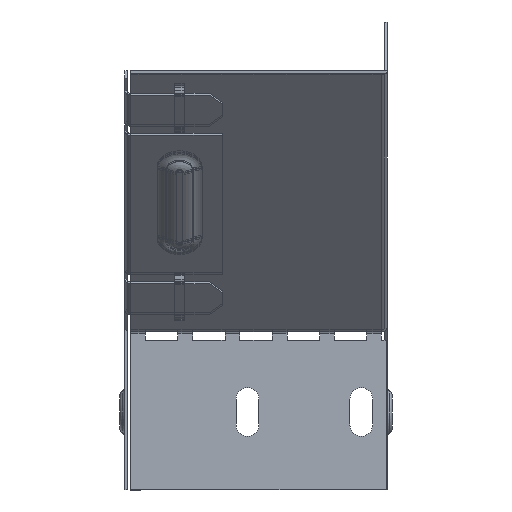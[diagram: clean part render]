
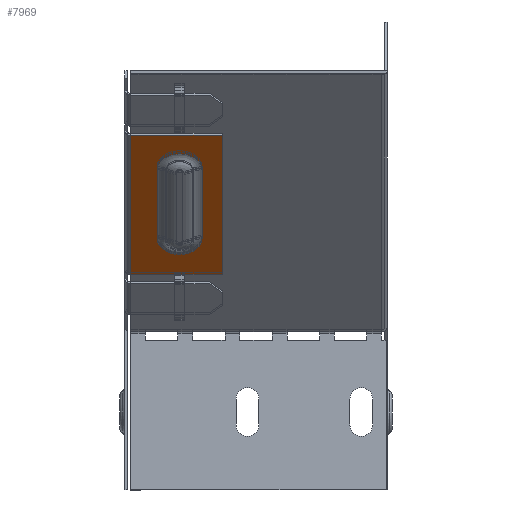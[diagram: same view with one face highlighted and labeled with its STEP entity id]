
A CAD part, left-side view. The second image highlights one B-rep face of the part: STEP entity #7969.
In plain terms, the highlighted planar face has unit normal (-0.707, 0, -0.707).
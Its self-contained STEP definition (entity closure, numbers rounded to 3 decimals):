
#144 = VERTEX_POINT ( 'NONE', #8994 ) ;
#161 = VECTOR ( 'NONE', #2326, 1000. ) ;
#490 = VECTOR ( 'NONE', #8975, 1000. ) ;
#528 = CARTESIAN_POINT ( 'NONE',  ( -261.823, 50., -34.855 ) ) ;
#715 = LINE ( 'NONE', #18244, #161 ) ;
#957 = VERTEX_POINT ( 'NONE', #21732 ) ;
#1019 = LINE ( 'NONE', #13686, #13134 ) ;
#1356 = CARTESIAN_POINT ( 'NONE',  ( -229.993, 63.1, -66.685 ) ) ;
#1637 = DIRECTION ( 'NONE',  ( -0.707, 0., 0.707 ) ) ;
#1711 = ORIENTED_EDGE ( 'NONE', *, *, #18096, .T. ) ;
#1872 = VERTEX_POINT ( 'NONE', #17827 ) ;
#1911 = CARTESIAN_POINT ( 'NONE',  ( -219.022, 50., -77.656 ) ) ;
#2326 = DIRECTION ( 'NONE',  ( 0.707, 0., -0.707 ) ) ;
#2347 = VERTEX_POINT ( 'NONE', #20715 ) ;
#2463 = VECTOR ( 'NONE', #2648, 1000. ) ;
#2648 = DIRECTION ( 'NONE',  ( -0.707, 0., 0.707 ) ) ;
#3487 = CARTESIAN_POINT ( 'NONE',  ( -140.837, 80., -155.841 ) ) ;
#4114 = DIRECTION ( 'NONE',  ( 0.5, -0.707, -0.5 ) ) ;
#5151 = CARTESIAN_POINT ( 'NONE',  ( -261.823, 78.2, -34.855 ) ) ;
#5232 = EDGE_LOOP ( 'NONE', ( #7811, #11174, #1711, #18679 ) ) ;
#5979 = CARTESIAN_POINT ( 'NONE',  ( -251.206, 63.1, -45.472 ) ) ;
#6175 = CARTESIAN_POINT ( 'NONE',  ( -229.993, 70.017, -66.685 ) ) ;
#6877 = DIRECTION ( 'NONE',  ( 0.707, 0., 0.707 ) ) ;
#7811 = ORIENTED_EDGE ( 'NONE', *, *, #10807, .F. ) ;
#7969 = ADVANCED_FACE ( 'NONE', ( #15944, #20283 ), #10250, .F. ) ;
#8131 = CARTESIAN_POINT ( 'NONE',  ( -278.087, 78.2, -18.591 ) ) ;
#8435 = ORIENTED_EDGE ( 'NONE', *, *, #8700, .T. ) ;
#8700 = EDGE_CURVE ( 'NONE', #18934, #22039, #17048, .T. ) ;
#8975 = DIRECTION ( 'NONE',  ( 0., 1., 0. ) ) ;
#8994 = CARTESIAN_POINT ( 'NONE',  ( -229.993, 56.183, -66.685 ) ) ;
#10083 = EDGE_CURVE ( 'NONE', #22039, #2347, #18866, .T. ) ;
#10250 = PLANE ( 'NONE',  #11032 ) ;
#10386 = CIRCLE ( 'NONE', #19848, 6.917 ) ;
#10415 = CARTESIAN_POINT ( 'NONE',  ( -219.022, 50., -77.656 ) ) ;
#10420 = EDGE_CURVE ( 'NONE', #1872, #11478, #17215, .T. ) ;
#10807 = EDGE_CURVE ( 'NONE', #957, #11478, #14513, .T. ) ;
#11032 = AXIS2_PLACEMENT_3D ( 'NONE', #3487, #6877, #22188 ) ;
#11147 = LINE ( 'NONE', #10415, #17612 ) ;
#11174 = ORIENTED_EDGE ( 'NONE', *, *, #19256, .T. ) ;
#11478 = VERTEX_POINT ( 'NONE', #5151 ) ;
#11660 = DIRECTION ( 'NONE',  ( -0.707, 0., 0.707 ) ) ;
#13008 = ORIENTED_EDGE ( 'NONE', *, *, #15656, .T. ) ;
#13134 = VECTOR ( 'NONE', #1637, 1000. ) ;
#13686 = CARTESIAN_POINT ( 'NONE',  ( -140.837, 50., -155.841 ) ) ;
#14109 = ORIENTED_EDGE ( 'NONE', *, *, #10083, .T. ) ;
#14513 = LINE ( 'NONE', #8131, #19665 ) ;
#14820 = EDGE_CURVE ( 'NONE', #144, #18934, #10386, .T. ) ;
#14830 = AXIS2_PLACEMENT_3D ( 'NONE', #5979, #21475, #4114 ) ;
#15155 = DIRECTION ( 'NONE',  ( 0.5, -0.707, -0.5 ) ) ;
#15447 = VERTEX_POINT ( 'NONE', #1911 ) ;
#15656 = EDGE_CURVE ( 'NONE', #2347, #144, #715, .T. ) ;
#15769 = EDGE_LOOP ( 'NONE', ( #13008, #16377, #8435, #14109 ) ) ;
#15846 = DIRECTION ( 'NONE',  ( 0., -1., 0. ) ) ;
#15944 = FACE_BOUND ( 'NONE', #15769, .T. ) ;
#16377 = ORIENTED_EDGE ( 'NONE', *, *, #14820, .T. ) ;
#17048 = LINE ( 'NONE', #6175, #2463 ) ;
#17215 = LINE ( 'NONE', #528, #490 ) ;
#17612 = VECTOR ( 'NONE', #15846, 1000. ) ;
#17827 = CARTESIAN_POINT ( 'NONE',  ( -261.823, 50., -34.855 ) ) ;
#18096 = EDGE_CURVE ( 'NONE', #15447, #1872, #1019, .T. ) ;
#18244 = CARTESIAN_POINT ( 'NONE',  ( -229.993, 56.183, -66.685 ) ) ;
#18679 = ORIENTED_EDGE ( 'NONE', *, *, #10420, .T. ) ;
#18866 = CIRCLE ( 'NONE', #14830, 6.917 ) ;
#18934 = VERTEX_POINT ( 'NONE', #20819 ) ;
#19256 = EDGE_CURVE ( 'NONE', #957, #15447, #11147, .T. ) ;
#19665 = VECTOR ( 'NONE', #11660, 1000. ) ;
#19848 = AXIS2_PLACEMENT_3D ( 'NONE', #1356, #20376, #15155 ) ;
#20283 = FACE_OUTER_BOUND ( 'NONE', #5232, .T. ) ;
#20376 = DIRECTION ( 'NONE',  ( 0.707, 0., 0.707 ) ) ;
#20715 = CARTESIAN_POINT ( 'NONE',  ( -251.206, 56.183, -45.472 ) ) ;
#20819 = CARTESIAN_POINT ( 'NONE',  ( -229.993, 70.017, -66.685 ) ) ;
#21232 = CARTESIAN_POINT ( 'NONE',  ( -251.206, 70.017, -45.472 ) ) ;
#21475 = DIRECTION ( 'NONE',  ( 0.707, 0., 0.707 ) ) ;
#21732 = CARTESIAN_POINT ( 'NONE',  ( -219.022, 78.2, -77.656 ) ) ;
#22039 = VERTEX_POINT ( 'NONE', #21232 ) ;
#22188 = DIRECTION ( 'NONE',  ( 0.707, 0., -0.707 ) ) ;
